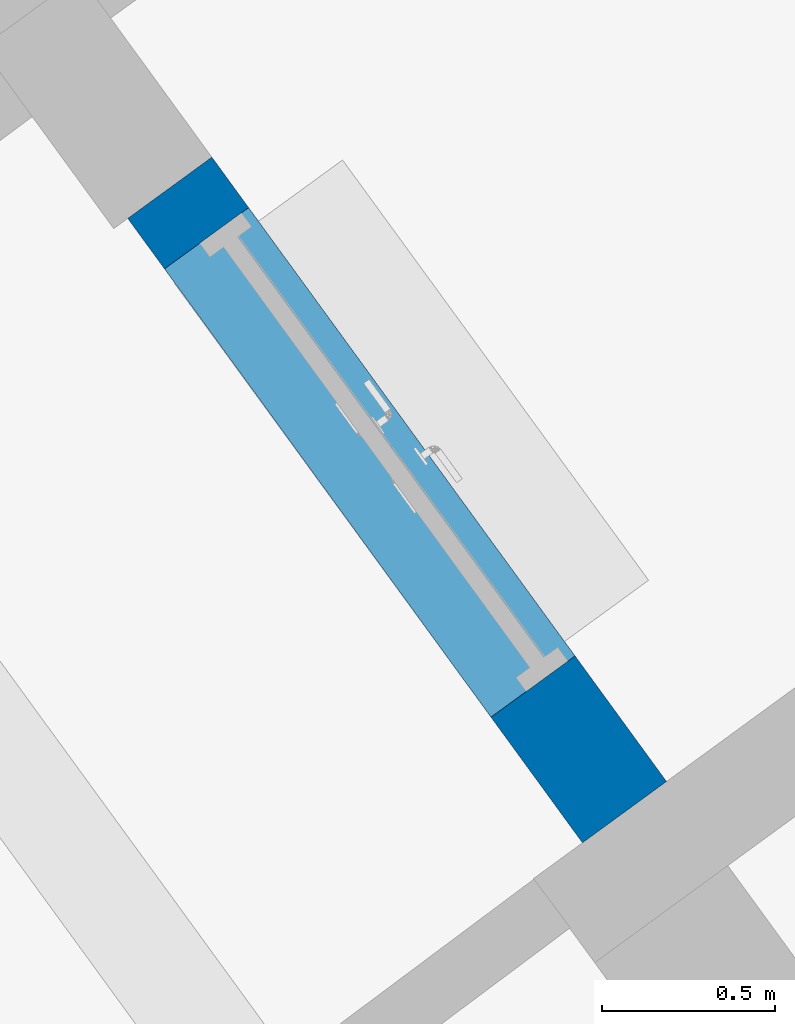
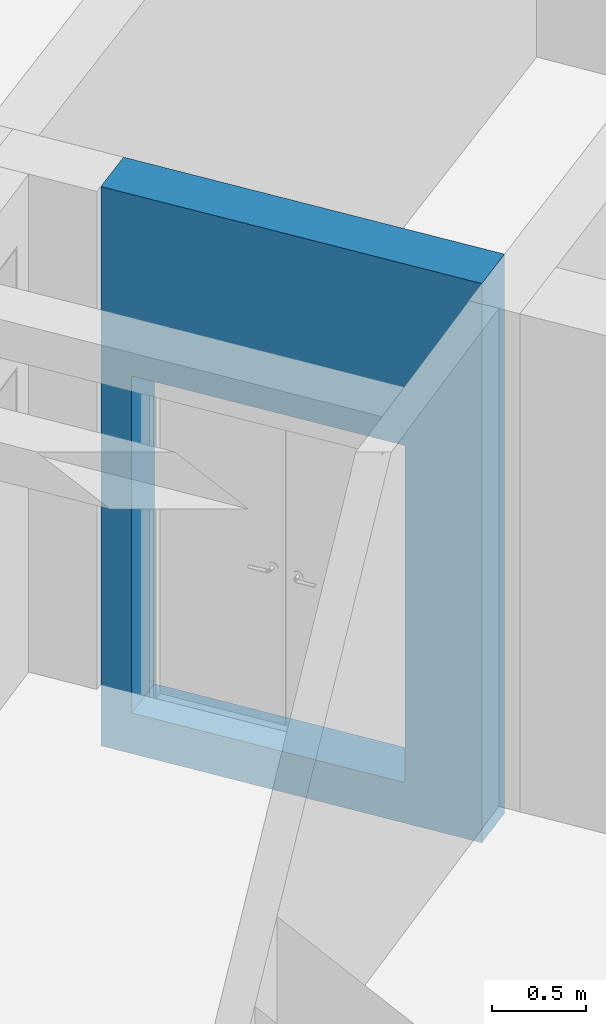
# One storey, part 99 of 157: 1 wall, 2 openings.
"""IFC2X3 building model written with IfcOpenShell, lengths in millimetres."""

import ifcopenshell
import ifcopenshell.guid

model = None  # the IFC model being written
_history = None  # IfcOwnerHistory: only IFC2X3 demands one
_inside = {}  # id of a spatial element -> (the spatial element, [elements in it])
_under = {}  # id of a project, library or spatial element -> (it, [spatial elements below it])
_declared = {}  # id of a project -> (the project, [libraries it declares])
_typed = {}  # id of a type object -> (the type object, [elements of that type])
_made_of = {}  # id of a material, layer set ... -> (it, [elements and type objects made of it])


def new_model(schema):
    """Start an empty IFC model of exactly this schema.

    Asked for "IFC4X3", IfcOpenShell would pick the latest addendum, in which some entities
    have other attributes; the version numbers below select the first issue.
    IFC2X3 requires an IfcOwnerHistory on every rooted entity: one is made here for all.
    """
    global model, _history
    if schema == "IFC4X3":
        model = ifcopenshell.file(schema_version=(4, 3, 0, 0))
    else:
        model = ifcopenshell.file(schema=schema)
    _inside.clear()
    _under.clear()
    _declared.clear()
    _typed.clear()
    _made_of.clear()
    _history = None
    if model.schema == "IFC2X3":
        org = make("IfcOrganization", Name="unknown")
        user = make(
            "IfcPersonAndOrganization",
            ThePerson=make("IfcPerson", FamilyName="unknown"),
            TheOrganization=org,
        )
        app = make(
            "IfcApplication",
            ApplicationDeveloper=org,
            Version="unknown",
            ApplicationFullName="unknown",
            ApplicationIdentifier="unknown",
        )
        _history = make(
            "IfcOwnerHistory",
            OwningUser=user,
            OwningApplication=app,
            ChangeAction="ADDED",
            CreationDate=0,
        )
    return model


def make(cls, **values):
    """One entity of the class cls with the attributes given. An attribute that is None is left unset."""
    return model.create_entity(
        cls, **{name: value for name, value in values.items() if value is not None}
    )


def entity(cls, *values):
    """Any entity or typed value of the class cls, its attributes in the order of the schema. None: left unset."""
    e = model.create_entity(cls)
    for i, value in enumerate(values):
        if value is not None:
            e[i] = value
    return e


def rooted(cls, **values):
    """An entity with a GlobalId (a new one), such as an element, a storey or a relation."""
    return make(cls, GlobalId=ifcopenshell.guid.new(), OwnerHistory=_history, **values)


def si_unit(unit_type, name, prefix=None):
    """IfcSIUnit, for example si_unit("LENGTHUNIT", "METRE", prefix="MILLI")."""
    return make("IfcSIUnit", UnitType=unit_type, Prefix=prefix, Name=name)


def converted_unit(unit_type, name, factor, base, dimensions=None, offset=None):
    """IfcConversionBasedUnit, such as the inch: factor (a typed value) times the base unit."""
    return make(
        "IfcConversionBasedUnit"
        if offset is None
        else "IfcConversionBasedUnitWithOffset",
        ConversionOffset=offset,
        Dimensions=None
        if dimensions is None
        else entity("IfcDimensionalExponents", *dimensions),
        UnitType=unit_type,
        Name=name,
        ConversionFactor=make(
            "IfcMeasureWithUnit", ValueComponent=factor, UnitComponent=base
        ),
    )


def derived_unit(unit_type, elements):
    """IfcDerivedUnit: a product of units, each with its exponent."""
    return make(
        "IfcDerivedUnit",
        Elements=[
            make("IfcDerivedUnitElement", Unit=unit, Exponent=power)
            for unit, power in elements
        ],
        UnitType=unit_type,
    )


def assignment(units):
    """IfcUnitAssignment: the units of a project."""
    return None if units is None else make("IfcUnitAssignment", Units=units)


def point(xyz):
    """IfcCartesianPoint."""
    return None if xyz is None else make("IfcCartesianPoint", Coordinates=xyz)


def direction(xyz):
    """IfcDirection."""
    return None if xyz is None else make("IfcDirection", DirectionRatios=xyz)


def frame(location, z_axis=None, x_axis=None):
    """IfcAxis2Placement3D, a coordinate frame: its origin and axes. An axis left out is left unset."""
    return make(
        "IfcAxis2Placement3D",
        Location=point(location),
        Axis=direction(z_axis),
        RefDirection=direction(x_axis),
    )


def frame_2d(location, x_axis=None):
    """IfcAxis2Placement2D, a coordinate frame in the plane: its origin and x axis."""
    return make(
        "IfcAxis2Placement2D", Location=point(location), RefDirection=direction(x_axis)
    )


def origin():
    """The frame at (0, 0, 0) with its axes left unset."""
    return frame((0.0, 0.0, 0.0))


def origin_2d_with_axis():
    """The frame at (0, 0) in the plane with the x axis (1, 0) written out."""
    return frame_2d((0.0, 0.0), x_axis=(1.0, 0.0))


def place(relative_to, where):
    """IfcLocalPlacement: puts the frame where relative to a parent placement (None: the world)."""
    return make(
        "IfcLocalPlacement", PlacementRelTo=relative_to, RelativePlacement=where
    )


def context(
    kind, dimensions, precision=None, world=None, true_north=None, identifier=None
):
    """IfcGeometricRepresentationContext, for example the 3D "Model" context."""
    return make(
        "IfcGeometricRepresentationContext",
        ContextIdentifier=identifier,
        ContextType=kind,
        CoordinateSpaceDimension=dimensions,
        Precision=precision,
        WorldCoordinateSystem=world,
        TrueNorth=true_north,
    )


def subcontext(parent, identifier, kind, view, scale=None):
    """IfcGeometricRepresentationSubContext, for example "Body" below "Model"."""
    return make(
        "IfcGeometricRepresentationSubContext",
        ContextIdentifier=identifier,
        ContextType=kind,
        ParentContext=parent,
        TargetScale=scale,
        TargetView=view,
    )


def project(units=None, contexts=None):
    """IfcProject with its units and contexts."""
    return rooted(
        "IfcProject",
        Name="project",
        RepresentationContexts=contexts,
        UnitsInContext=assignment(units),
    )


def spatial(cls, under=None, at=None, **own):
    """A site, building, storey or space (cls), placed at a placement, below another one or the project."""
    s = rooted(cls, ObjectPlacement=at, **own)
    if under is not None:
        _under.setdefault(under.id(), (under, []))[1].append(s)
    return s


def polyline(points):
    """IfcPolyline through the points."""
    return make("IfcPolyline", Points=[point(p) for p in points])


def profile(cls, at=None, kind="AREA", **sizes):
    """A parametric profile (cls). Its sizes go by their IFC names, for example OverallWidth=200.0."""
    return make(cls, ProfileType=kind, Position=at, **sizes)


def rectangle(**sizes):
    """IfcRectangleProfileDef."""
    return profile("IfcRectangleProfileDef", **sizes)


def outline(outer, holes=None, kind="AREA"):
    """IfcArbitraryClosedProfileDef: a profile drawn as a closed curve; with holes, ...WithVoids."""
    if holes is None:
        return make("IfcArbitraryClosedProfileDef", ProfileType=kind, OuterCurve=outer)
    return make(
        "IfcArbitraryProfileDefWithVoids",
        ProfileType=kind,
        OuterCurve=outer,
        InnerCurves=holes,
    )


def extrude(swept, where, along, depth):
    """IfcExtrudedAreaSolid: the profile swept, set in the frame where, extruded along a direction by depth."""
    return make(
        "IfcExtrudedAreaSolid",
        SweptArea=swept,
        Position=where,
        ExtrudedDirection=direction(along),
        Depth=depth,
    )


def shape(context_of_items, identifier, shape_type, items):
    """IfcShapeRepresentation: the items that make up one representation, for example the "Body"."""
    return make(
        "IfcShapeRepresentation",
        ContextOfItems=context_of_items,
        RepresentationIdentifier=identifier,
        RepresentationType=shape_type,
        Items=items,
    )


def material(Name=None, Category=None):
    """IfcMaterial."""
    return make("IfcMaterial", Name=Name, Category=Category)


def layer(
    of_material, thickness, ventilated=None, Name=None, Category=None, Priority=None
):
    """IfcMaterialLayer: one layer of a wall or slab, of a material (None: an air gap)."""
    return make(
        "IfcMaterialLayer",
        Material=of_material,
        LayerThickness=thickness,
        IsVentilated=ventilated,
        Name=Name,
        Category=Category,
        Priority=Priority,
    )


def layer_set(layers, Name=None):
    """IfcMaterialLayerSet."""
    return make("IfcMaterialLayerSet", MaterialLayers=layers, LayerSetName=Name)


def layer_usage(for_layer_set, set_direction, sense, offset, extent=None):
    """IfcMaterialLayerSetUsage: how a layer set lies in its element."""
    return make(
        "IfcMaterialLayerSetUsage",
        ForLayerSet=for_layer_set,
        LayerSetDirection=set_direction,
        DirectionSense=sense,
        OffsetFromReferenceLine=offset,
        ReferenceExtent=extent,
    )


def made_of(thing, what):
    """Note that an element or type object is made of a material, layer set ...; save() writes the relation."""
    if what is not None:
        _made_of.setdefault(what.id(), (what, []))[1].append(thing)
    return thing


def type_object(cls, material=None, **own):
    """A type object (cls), such as IfcWallType, which elements share."""
    return made_of(rooted(cls, **own), material)


def element(
    cls,
    number,
    at=None,
    inside=None,
    cuts=None,
    type_object=None,
    material=None,
    context=None,
    identifier="Body",
    shape_type=None,
    held_by="IfcProductDefinitionShape",
    body=None,
    shapes=None,
    **own,
):
    """One element of the class cls, such as IfcWall. Its Tag is "e" and its number.

    at: its placement. inside: the storey or other place that contains it. cuts: it is an
    opening in that element (IfcRelVoidsElement). A single representation is given by context,
    identifier, shape_type and body (its items); several are given by shapes. held_by: the class
    of the entity that holds the representations. save() writes the other relations.
    """
    e = rooted(cls, Tag="e%d" % number, ObjectPlacement=at, **own)
    if body is not None:
        shapes = [shape(context, identifier, shape_type, body)]
    if shapes is not None:
        e.Representation = make(held_by, Representations=shapes)
    if inside is not None:
        _inside.setdefault(inside.id(), (inside, []))[1].append(e)
    if cuts is not None:
        rooted(
            "IfcRelVoidsElement", RelatingBuildingElement=cuts, RelatedOpeningElement=e
        )
    if type_object is not None:
        _typed.setdefault(type_object.id(), (type_object, []))[1].append(e)
    return made_of(e, material)


def aggregate(whole, parts):
    """IfcRelAggregates: a whole, such as a stair, and the parts it consists of."""
    return rooted("IfcRelAggregates", RelatingObject=whole, RelatedObjects=parts)


def save(model, path):
    """Write the relations noted so far, then the file.

    IfcRelAggregates (storeys below a building ...), IfcRelContainedInSpatialStructure (elements
    in a storey), IfcRelDefinesByType, IfcRelAssociatesMaterial and IfcRelDeclares: one each for
    every whole, place, type object, material and project.
    """
    for whole, parts in _under.values():
        aggregate(whole, parts)
    for where, things in _inside.values():
        rooted(
            "IfcRelContainedInSpatialStructure",
            RelatedElements=things,
            RelatingStructure=where,
        )
    for kind, things in _typed.values():
        rooted("IfcRelDefinesByType", RelatedObjects=things, RelatingType=kind)
    for what, things in _made_of.values():
        rooted("IfcRelAssociatesMaterial", RelatedObjects=things, RelatingMaterial=what)
    for by, libraries in _declared.values():
        rooted("IfcRelDeclares", RelatingContext=by, RelatedDefinitions=libraries)
    model.write(path)


model = new_model("IFC2X3")

# Units and contexts
model_context = context("Model", 3, precision=0.01, world=origin(), true_north=direction((6.123031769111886e-17, 1.0)))
body_context = subcontext(model_context, "Body", "Model", "MODEL_VIEW")
ifc_project = project(units=[si_unit("LENGTHUNIT", "METRE", prefix="MILLI"), si_unit("AREAUNIT", "SQUARE_METRE"), si_unit("VOLUMEUNIT", "CUBIC_METRE"), converted_unit("PLANEANGLEUNIT", "DEGREE", entity("IfcRatioMeasure", 0.017453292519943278), si_unit("PLANEANGLEUNIT", "RADIAN"), dimensions=[0, 0, 0, 0, 0, 0, 0]), si_unit("MASSUNIT", "GRAM", prefix="KILO"), derived_unit("MASSDENSITYUNIT", [(si_unit("MASSUNIT", "GRAM", prefix="KILO"), 1), (si_unit("LENGTHUNIT", "METRE"), -3)]), derived_unit("MOMENTOFINERTIAUNIT", [(si_unit("LENGTHUNIT", "METRE"), 4)]), si_unit("TIMEUNIT", "SECOND"), si_unit("FREQUENCYUNIT", "HERTZ"), si_unit("THERMODYNAMICTEMPERATUREUNIT", "DEGREE_CELSIUS"), derived_unit("THERMALTRANSMITTANCEUNIT", [(si_unit("MASSUNIT", "GRAM", prefix="KILO"), 1), (si_unit("THERMODYNAMICTEMPERATUREUNIT", "KELVIN"), -1), (si_unit("TIMEUNIT", "SECOND"), -3)]), derived_unit("THERMALCONDUCTANCEUNIT", [(si_unit("MASSUNIT", "GRAM", prefix="KILO"), 1), (si_unit("LENGTHUNIT", "METRE"), 1), (si_unit("THERMODYNAMICTEMPERATUREUNIT", "KELVIN"), -1), (si_unit("TIMEUNIT", "SECOND"), -3)]), derived_unit("VOLUMETRICFLOWRATEUNIT", [(si_unit("LENGTHUNIT", "METRE"), 3), (si_unit("TIMEUNIT", "SECOND"), -1)]), derived_unit("MASSFLOWRATEUNIT", [(si_unit("MASSUNIT", "GRAM", prefix="KILO"), 1), (si_unit("TIMEUNIT", "SECOND"), -1)]), derived_unit("ROTATIONALFREQUENCYUNIT", [(si_unit("TIMEUNIT", "SECOND"), -1)]), si_unit("ELECTRICCURRENTUNIT", "AMPERE"), si_unit("ELECTRICVOLTAGEUNIT", "VOLT"), si_unit("POWERUNIT", "WATT"), converted_unit("FORCEUNIT", "KIP", entity("IfcRatioMeasure", 2.088543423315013e-05), si_unit("FORCEUNIT", "NEWTON"), dimensions=[1, 1, -2, 0, 0, 0, 0]), si_unit("ILLUMINANCEUNIT", "LUX"), si_unit("LUMINOUSFLUXUNIT", "LUMEN"), si_unit("LUMINOUSINTENSITYUNIT", "CANDELA"), derived_unit("USERDEFINED", [(si_unit("MASSUNIT", "GRAM", prefix="KILO"), -1), (si_unit("LENGTHUNIT", "METRE"), -2), (si_unit("TIMEUNIT", "SECOND"), 3), (si_unit("LUMINOUSFLUXUNIT", "LUMEN"), 1)]), derived_unit("USERDEFINED", [(si_unit("MASSUNIT", "GRAM", prefix="KILO"), 1), (si_unit("LENGTHUNIT", "METRE"), 3), (si_unit("TIMEUNIT", "SECOND"), -3), (si_unit("ELECTRICCURRENTUNIT", "AMPERE"), -2)]), derived_unit("USERDEFINED", [(si_unit("LENGTHUNIT", "METRE"), 2), (si_unit("TIMEUNIT", "SECOND"), -2)]), derived_unit("SOUNDPOWERUNIT", [(si_unit("MASSUNIT", "GRAM", prefix="KILO"), 1), (si_unit("LENGTHUNIT", "METRE"), 2), (si_unit("TIMEUNIT", "SECOND"), -3)]), derived_unit("SOUNDPRESSUREUNIT", [(si_unit("MASSUNIT", "GRAM", prefix="KILO"), 1), (si_unit("LENGTHUNIT", "METRE"), -1), (si_unit("TIMEUNIT", "SECOND"), -2)]), derived_unit("LINEARVELOCITYUNIT", [(si_unit("LENGTHUNIT", "METRE"), 1), (si_unit("TIMEUNIT", "SECOND"), -1)]), si_unit("PRESSUREUNIT", "PASCAL"), derived_unit("USERDEFINED", [(si_unit("LENGTHUNIT", "METRE"), -2), (si_unit("MASSUNIT", "GRAM", prefix="KILO"), 1), (si_unit("TIMEUNIT", "SECOND"), -2)]), derived_unit("LINEARFORCEUNIT", [(si_unit("MASSUNIT", "GRAM", prefix="KILO"), 1), (si_unit("LENGTHUNIT", "METRE"), 1), (si_unit("TIMEUNIT", "SECOND"), -2), (si_unit("LENGTHUNIT", "METRE"), -1)]), derived_unit("PLANARFORCEUNIT", [(si_unit("MASSUNIT", "GRAM", prefix="KILO"), 1), (si_unit("LENGTHUNIT", "METRE"), 1), (si_unit("TIMEUNIT", "SECOND"), -2), (si_unit("LENGTHUNIT", "METRE"), -2)]), derived_unit("SPECIFICHEATCAPACITYUNIT", [(si_unit("LENGTHUNIT", "METRE"), 2), (si_unit("TIMEUNIT", "SECOND"), -2), (si_unit("THERMODYNAMICTEMPERATUREUNIT", "KELVIN"), -1)]), derived_unit("VAPORPERMEABILITYUNIT", [(si_unit("TIMEUNIT", "SECOND"), 1), (si_unit("LENGTHUNIT", "METRE"), -1)]), derived_unit("DYNAMICVISCOSITYUNIT", [(si_unit("MASSUNIT", "GRAM", prefix="KILO"), 1), (si_unit("LENGTHUNIT", "METRE"), -1), (si_unit("TIMEUNIT", "SECOND"), -1)]), derived_unit("THERMALEXPANSIONCOEFFICIENTUNIT", [(si_unit("THERMODYNAMICTEMPERATUREUNIT", "KELVIN"), -1)])], contexts=[model_context])

# Site, building, storey
site_placement = place(None, frame((0.0, 0.0, 0.0), z_axis=(0.0, 0.0, 1.0), x_axis=(0.8191520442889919, 0.5735764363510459, 0.0)))
site = spatial("IfcSite", under=ifc_project, at=site_placement, Name="Default", CompositionType="ELEMENT")
building_placement = place(site_placement, origin())
building = spatial("IfcBuilding", under=site, at=building_placement, CompositionType="ELEMENT")
storey_placement = place(building_placement, origin())
storey = spatial("IfcBuildingStorey", under=building, at=storey_placement, Name="1.EG +0.00", CompositionType="ELEMENT", Elevation=-4.331468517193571e-12)

# Wall, openings
ifc_material = material(Name="Analytical Wall Surface_CJC")
ifc_layer = layer(ifc_material, 300.0)
ifc_layer_set = layer_set([ifc_layer], Name="Basic Wall:Wand_Innen_30")
ifc_layer_usage = layer_usage(ifc_layer_set, "AXIS2", "NEGATIVE", 150.0)
wall_type = type_object("IfcWallType", Name="Basic Wall:Wand_Innen_30", PredefinedType="STANDARD", material=ifc_layer_set)
wall_placement = place(storey_placement, frame((-190922.32953257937, 164573.67465835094, -1150.0), z_axis=(0.0, 0.0, 1.0), x_axis=(-0.018539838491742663, 0.9998281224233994, 0.0)))
wall = element("IfcWallStandardCase", 1, at=wall_placement, inside=storey, type_object=wall_type, material=ifc_layer_usage, Name="Basic Wall:Wand_Innen_30", ObjectType="Basic Wall:Wand_Innen_30", context=body_context, shape_type="SweptSolid", body=[
    extrude(outline(polyline([(-150.0, -1114.4472673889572), (150.0, -1114.4472673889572), (150.0, 1114.592534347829), (-150.0, 1114.3020004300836), (-150.0, -1114.4472673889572)])), frame((1114.592534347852, 0.0, 0.0), z_axis=(0.0, 0.0, 1.0), x_axis=(0.0, 1.0, 0.0)), (0.0, 0.0, 1.0), 3650.0000000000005),
])
opening_1_placement = place(storey_placement, frame((-190922.32953257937, 164573.67465835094, -1150.0), z_axis=(0.0, 0.0, 1.0), x_axis=(-0.018539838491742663, 0.9998281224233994, 0.0)))
element("IfcOpeningElement", 2, at=opening_1_placement, cuts=wall, Name="Basic Wall:Wand_Innen_30:1", ObjectType="Opening", context=body_context, shape_type="SweptSolid", body=[
    extrude(rectangle(XDim=2200.0, YDim=1600.0000000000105, at=origin_2d_with_axis()), frame((1248.7393731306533, 150.0, 1365.0), z_axis=(0.0, -1.0, 0.0), x_axis=(0.0, 0.0, -1.0)), (0.0, 0.0, 1.0), 299.9999999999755),
])
opening_2_placement = place(wall_placement, frame((2048.7393731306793, 150.0, 265.0)))
element("IfcOpeningElement", 3, at=opening_2_placement, cuts=wall, Name="M_Door-Passage-Double-Flush:150x210:1", ObjectType="Opening", context=body_context, shape_type="SweptSolid", body=[
    extrude(rectangle(XDim=2200.0, YDim=1599.999999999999, at=frame_2d((1100.0, 799.9999999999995), x_axis=(1.0, 0.0))), frame((0.0, 0.0, 0.0), z_axis=(0.0, -1.0, 0.0), x_axis=(0.0, 0.0, 1.0)), (0.0, 0.0, 1.0), 300.0),
])

save(model, "model.ifc")
